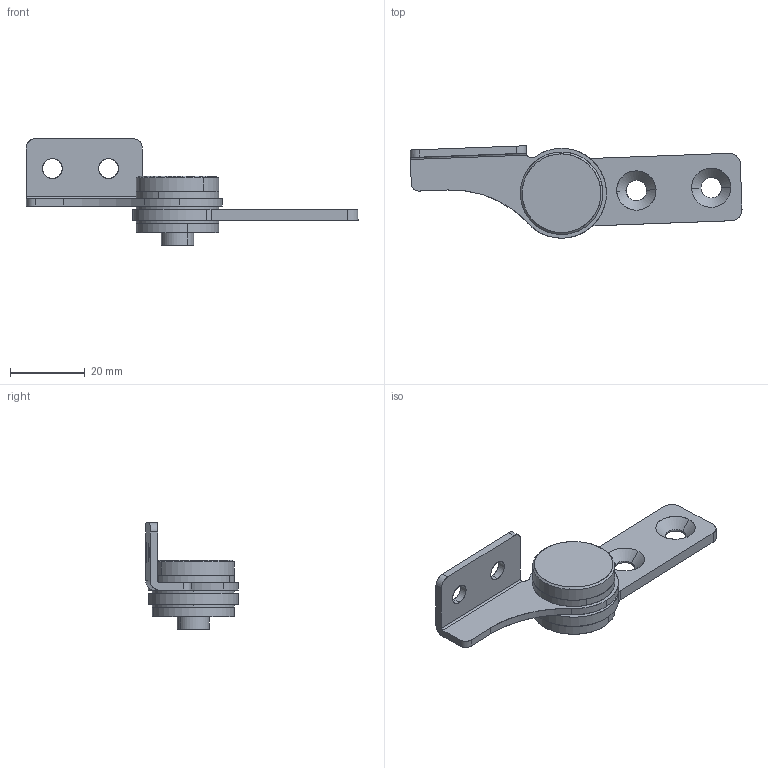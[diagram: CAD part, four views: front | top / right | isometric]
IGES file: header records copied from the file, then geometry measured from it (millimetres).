
Start section: SolidWorks IGES file using analytic representation for surfaces
Global section: file name: D:\Personal\Desktop\CL334-Z.IGS; native system: SolidWorks 2018; preprocessor: SolidWorks 2018; author: 666; date: 201013.083435; units: millimetre
Bounding box: 88.64 x 24.66 x 28.5 mm (x, y, z)
Surface area: 10014.8 mm2 (no closed solid volume)
Topology: 0 solids, 0 shells, 84 faces, 1692 edges, 1690 vertices
Faces by surface type: revolution 59, bspline 25
